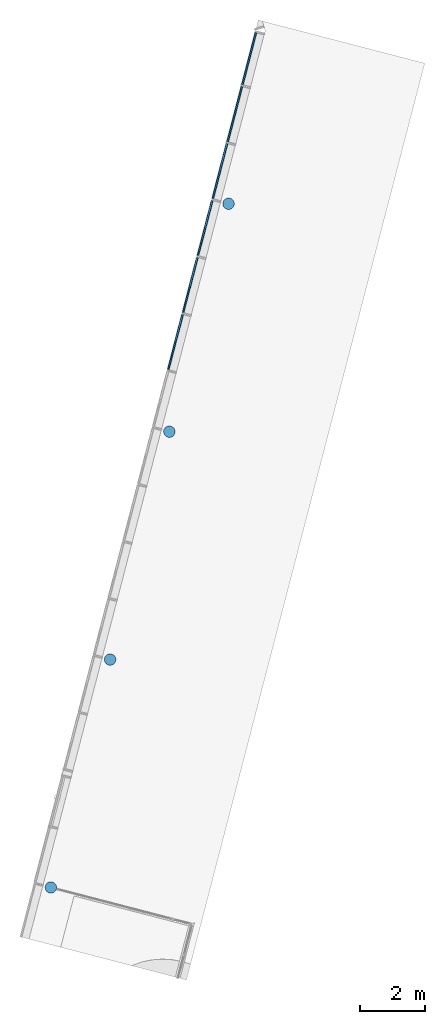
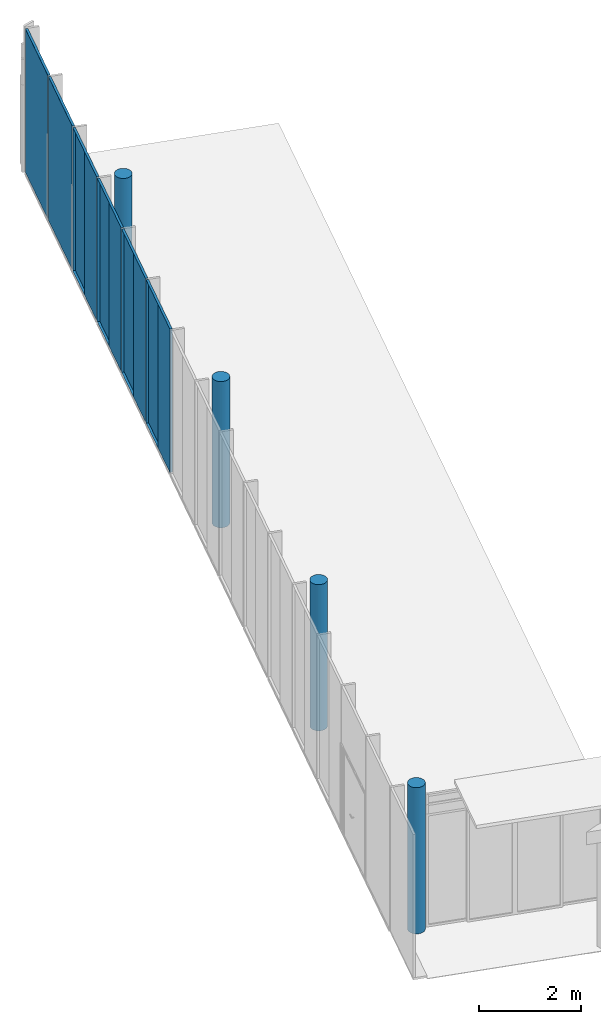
# One storey, part 6 of 9: 8 plates, 4 columns, 5 elements without a shape of their own.
"""IFC2X3 building model written with IfcOpenShell, lengths in millimetres."""

import ifcopenshell
import ifcopenshell.guid

model = None  # the IFC model being written
_history = None  # IfcOwnerHistory: only IFC2X3 demands one
_inside = {}  # id of a spatial element -> (the spatial element, [elements in it])
_under = {}  # id of a project, library or spatial element -> (it, [spatial elements below it])
_declared = {}  # id of a project -> (the project, [libraries it declares])
_typed = {}  # id of a type object -> (the type object, [elements of that type])
_made_of = {}  # id of a material, layer set ... -> (it, [elements and type objects made of it])


def new_model(schema):
    """Start an empty IFC model of exactly this schema.

    Asked for "IFC4X3", IfcOpenShell would pick the latest addendum, in which some entities
    have other attributes; the version numbers below select the first issue.
    IFC2X3 requires an IfcOwnerHistory on every rooted entity: one is made here for all.
    """
    global model, _history
    if schema == "IFC4X3":
        model = ifcopenshell.file(schema_version=(4, 3, 0, 0))
    else:
        model = ifcopenshell.file(schema=schema)
    _inside.clear()
    _under.clear()
    _declared.clear()
    _typed.clear()
    _made_of.clear()
    _history = None
    if model.schema == "IFC2X3":
        org = make("IfcOrganization", Name="unknown")
        user = make(
            "IfcPersonAndOrganization",
            ThePerson=make("IfcPerson", FamilyName="unknown"),
            TheOrganization=org,
        )
        app = make(
            "IfcApplication",
            ApplicationDeveloper=org,
            Version="unknown",
            ApplicationFullName="unknown",
            ApplicationIdentifier="unknown",
        )
        _history = make(
            "IfcOwnerHistory",
            OwningUser=user,
            OwningApplication=app,
            ChangeAction="ADDED",
            CreationDate=0,
        )
    return model


def make(cls, **values):
    """One entity of the class cls with the attributes given. An attribute that is None is left unset."""
    return model.create_entity(
        cls, **{name: value for name, value in values.items() if value is not None}
    )


def entity(cls, *values):
    """Any entity or typed value of the class cls, its attributes in the order of the schema. None: left unset."""
    e = model.create_entity(cls)
    for i, value in enumerate(values):
        if value is not None:
            e[i] = value
    return e


def rooted(cls, **values):
    """An entity with a GlobalId (a new one), such as an element, a storey or a relation."""
    return make(cls, GlobalId=ifcopenshell.guid.new(), OwnerHistory=_history, **values)


def si_unit(unit_type, name, prefix=None):
    """IfcSIUnit, for example si_unit("LENGTHUNIT", "METRE", prefix="MILLI")."""
    return make("IfcSIUnit", UnitType=unit_type, Prefix=prefix, Name=name)


def converted_unit(unit_type, name, factor, base, dimensions=None, offset=None):
    """IfcConversionBasedUnit, such as the inch: factor (a typed value) times the base unit."""
    return make(
        "IfcConversionBasedUnit"
        if offset is None
        else "IfcConversionBasedUnitWithOffset",
        ConversionOffset=offset,
        Dimensions=None
        if dimensions is None
        else entity("IfcDimensionalExponents", *dimensions),
        UnitType=unit_type,
        Name=name,
        ConversionFactor=make(
            "IfcMeasureWithUnit", ValueComponent=factor, UnitComponent=base
        ),
    )


def derived_unit(unit_type, elements):
    """IfcDerivedUnit: a product of units, each with its exponent."""
    return make(
        "IfcDerivedUnit",
        Elements=[
            make("IfcDerivedUnitElement", Unit=unit, Exponent=power)
            for unit, power in elements
        ],
        UnitType=unit_type,
    )


def assignment(units):
    """IfcUnitAssignment: the units of a project."""
    return None if units is None else make("IfcUnitAssignment", Units=units)


def point(xyz):
    """IfcCartesianPoint."""
    return None if xyz is None else make("IfcCartesianPoint", Coordinates=xyz)


def direction(xyz):
    """IfcDirection."""
    return None if xyz is None else make("IfcDirection", DirectionRatios=xyz)


def frame(location, z_axis=None, x_axis=None):
    """IfcAxis2Placement3D, a coordinate frame: its origin and axes. An axis left out is left unset."""
    return make(
        "IfcAxis2Placement3D",
        Location=point(location),
        Axis=direction(z_axis),
        RefDirection=direction(x_axis),
    )


def origin():
    """The frame at (0, 0, 0) with its axes left unset."""
    return frame((0.0, 0.0, 0.0))


def origin_with_axes():
    """The frame at (0, 0, 0) with the z axis (0, 0, 1) and the x axis (1, 0, 0) written out."""
    return frame((0.0, 0.0, 0.0), z_axis=(0.0, 0.0, 1.0), x_axis=(1.0, 0.0, 0.0))


def place(relative_to, where):
    """IfcLocalPlacement: puts the frame where relative to a parent placement (None: the world)."""
    return make(
        "IfcLocalPlacement", PlacementRelTo=relative_to, RelativePlacement=where
    )


def context(
    kind, dimensions, precision=None, world=None, true_north=None, identifier=None
):
    """IfcGeometricRepresentationContext, for example the 3D "Model" context."""
    return make(
        "IfcGeometricRepresentationContext",
        ContextIdentifier=identifier,
        ContextType=kind,
        CoordinateSpaceDimension=dimensions,
        Precision=precision,
        WorldCoordinateSystem=world,
        TrueNorth=true_north,
    )


def subcontext(parent, identifier, kind, view, scale=None):
    """IfcGeometricRepresentationSubContext, for example "Body" below "Model"."""
    return make(
        "IfcGeometricRepresentationSubContext",
        ContextIdentifier=identifier,
        ContextType=kind,
        ParentContext=parent,
        TargetScale=scale,
        TargetView=view,
    )


def project(units=None, contexts=None):
    """IfcProject with its units and contexts."""
    return rooted(
        "IfcProject",
        Name="project",
        RepresentationContexts=contexts,
        UnitsInContext=assignment(units),
    )


def spatial(cls, under=None, at=None, **own):
    """A site, building, storey or space (cls), placed at a placement, below another one or the project."""
    s = rooted(cls, ObjectPlacement=at, **own)
    if under is not None:
        _under.setdefault(under.id(), (under, []))[1].append(s)
    return s


def faces_of(points, faces, orient=None, outer=None):
    """IfcFace entities. A face is a list of loops; a loop is a list of indices into points, from 0.

    orient and outer hold one flag for each loop. By default every Orientation is true, the
    first loop of a face is its IfcFaceOuterBound and the others are IfcFaceBound.
    """
    made = []
    for i, loops in enumerate(faces):
        bounds = []
        for j, loop in enumerate(loops):
            is_outer = j == 0 if outer is None else outer[i][j]
            bounds.append(
                make(
                    "IfcFaceOuterBound" if is_outer else "IfcFaceBound",
                    Bound=make("IfcPolyLoop", Polygon=[points[k] for k in loop]),
                    Orientation=True if orient is None else orient[i][j],
                )
            )
        made.append(make("IfcFace", Bounds=bounds))
    return made


def faceted_brep(points, faces, orient=None, outer=None, voids=None):
    """IfcFacetedBrep: a solid bounded by flat faces; with voids (closed shells), ...WithVoids."""
    shared = [point(p) for p in points]
    hull = make("IfcClosedShell", CfsFaces=faces_of(shared, faces, orient, outer))
    if voids is None:
        return make("IfcFacetedBrep", Outer=hull)
    return make(
        "IfcFacetedBrepWithVoids",
        Outer=hull,
        Voids=[
            make(cls, CfsFaces=faces_of(shared, fs, o, b)) for cls, fs, o, b in voids
        ],
    )


def shape(context_of_items, identifier, shape_type, items):
    """IfcShapeRepresentation: the items that make up one representation, for example the "Body"."""
    return make(
        "IfcShapeRepresentation",
        ContextOfItems=context_of_items,
        RepresentationIdentifier=identifier,
        RepresentationType=shape_type,
        Items=items,
    )


def material(Name=None, Category=None):
    """IfcMaterial."""
    return make("IfcMaterial", Name=Name, Category=Category)


def made_of(thing, what):
    """Note that an element or type object is made of a material, layer set ...; save() writes the relation."""
    if what is not None:
        _made_of.setdefault(what.id(), (what, []))[1].append(thing)
    return thing


def type_object(cls, material=None, **own):
    """A type object (cls), such as IfcWallType, which elements share."""
    return made_of(rooted(cls, **own), material)


def element(
    cls,
    number,
    at=None,
    inside=None,
    cuts=None,
    type_object=None,
    material=None,
    context=None,
    identifier="Body",
    shape_type=None,
    held_by="IfcProductDefinitionShape",
    body=None,
    shapes=None,
    **own,
):
    """One element of the class cls, such as IfcWall. Its Tag is "e" and its number.

    at: its placement. inside: the storey or other place that contains it. cuts: it is an
    opening in that element (IfcRelVoidsElement). A single representation is given by context,
    identifier, shape_type and body (its items); several are given by shapes. held_by: the class
    of the entity that holds the representations. save() writes the other relations.
    """
    e = rooted(cls, Tag="e%d" % number, ObjectPlacement=at, **own)
    if body is not None:
        shapes = [shape(context, identifier, shape_type, body)]
    if shapes is not None:
        e.Representation = make(held_by, Representations=shapes)
    if inside is not None:
        _inside.setdefault(inside.id(), (inside, []))[1].append(e)
    if cuts is not None:
        rooted(
            "IfcRelVoidsElement", RelatingBuildingElement=cuts, RelatedOpeningElement=e
        )
    if type_object is not None:
        _typed.setdefault(type_object.id(), (type_object, []))[1].append(e)
    return made_of(e, material)


def aggregate(whole, parts):
    """IfcRelAggregates: a whole, such as a stair, and the parts it consists of."""
    return rooted("IfcRelAggregates", RelatingObject=whole, RelatedObjects=parts)


def save(model, path):
    """Write the relations noted so far, then the file.

    IfcRelAggregates (storeys below a building ...), IfcRelContainedInSpatialStructure (elements
    in a storey), IfcRelDefinesByType, IfcRelAssociatesMaterial and IfcRelDeclares: one each for
    every whole, place, type object, material and project.
    """
    for whole, parts in _under.values():
        aggregate(whole, parts)
    for where, things in _inside.values():
        rooted(
            "IfcRelContainedInSpatialStructure",
            RelatedElements=things,
            RelatingStructure=where,
        )
    for kind, things in _typed.values():
        rooted("IfcRelDefinesByType", RelatedObjects=things, RelatingType=kind)
    for what, things in _made_of.values():
        rooted("IfcRelAssociatesMaterial", RelatedObjects=things, RelatingMaterial=what)
    for by, libraries in _declared.values():
        rooted("IfcRelDeclares", RelatingContext=by, RelatedDefinitions=libraries)
    model.write(path)


model = new_model("IFC2X3")

# Units and contexts
model_context = context("Model", 3, precision=0.01, world=origin(), true_north=direction((6.12323399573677e-17, 1.0)))
plan_context = context("Plan", 3, precision=1e-05, world=origin_with_axes())
body_context = subcontext(model_context, "Body", "Model", "MODEL_VIEW")
ifc_project = project(units=[converted_unit("PLANEANGLEUNIT", "DEGREE", entity("IfcPositiveLengthMeasure", 0.0174532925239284), si_unit("PLANEANGLEUNIT", "RADIAN"), dimensions=[0, 0, 0, 0, 0, 0, 0]), si_unit("AREAUNIT", "SQUARE_METRE"), si_unit("LENGTHUNIT", "METRE", prefix="MILLI"), si_unit("MASSUNIT", "GRAM", prefix="KILO"), si_unit("POWERUNIT", "WATT"), si_unit("PRESSUREUNIT", "PASCAL", prefix="KILO"), si_unit("FORCEUNIT", "NEWTON", prefix="KILO"), si_unit("ELECTRICVOLTAGEUNIT", "VOLT"), si_unit("ELECTRICCURRENTUNIT", "AMPERE"), si_unit("THERMODYNAMICTEMPERATUREUNIT", "DEGREE_CELSIUS"), si_unit("TIMEUNIT", "SECOND"), si_unit("VOLUMEUNIT", "CUBIC_METRE"), derived_unit("LINEARVELOCITYUNIT", [(si_unit("LENGTHUNIT", "METRE"), 1), (si_unit("TIMEUNIT", "SECOND"), -1)]), derived_unit("VOLUMETRICFLOWRATEUNIT", [(si_unit("VOLUMEUNIT", "CUBIC_METRE"), 1), (si_unit("TIMEUNIT", "SECOND"), -1)]), derived_unit("THERMALTRANSMITTANCEUNIT", [(si_unit("POWERUNIT", "WATT"), 1), (si_unit("THERMODYNAMICTEMPERATUREUNIT", "KELVIN"), -1), (si_unit("AREAUNIT", "SQUARE_METRE"), -1)]), derived_unit("SOUNDPRESSUREUNIT", [(si_unit("PRESSUREUNIT", "PASCAL"), 1)])], contexts=[model_context, plan_context])

# Site, building, storey
site_placement = place(None, frame((0.0, -2.21771188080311e-09, 0.0), z_axis=(0.0, 0.0, 1.0), x_axis=(0.266093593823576, -0.963947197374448, 0.0)))
site = spatial("IfcSite", under=ifc_project, at=site_placement, Name="ENZV", CompositionType="ELEMENT")
building_placement = place(site_placement, origin_with_axes())
building = spatial("IfcBuilding", under=site, at=building_placement, Name="ZV001", CompositionType="ELEMENT")
storey_placement = place(building_placement, frame((0.0, 0.0, 5100.0), z_axis=(0.0, 0.0, 1.0), x_axis=(1.0, 0.0, 0.0)))
storey = spatial("IfcBuildingStorey", under=building, at=storey_placement, Name="H01", CompositionType="ELEMENT", Elevation=5100.0)

# Columns
ifc_material_1 = material(Name="Betong Plasstøpt - B35")
column_type = type_object("IfcColumnType", Name="Søyle Betong Sirkulær:350", PredefinedType="COLUMN", material=ifc_material_1)
column_1_placement = place(storey_placement, frame((-177880.691951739, 378033.421964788, -5100.0), z_axis=(0.0, 0.0, 1.0), x_axis=(0.866040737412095, -0.499973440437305, 0.0)))
element("IfcColumn", 1, at=column_1_placement, inside=storey, type_object=column_type, Name="Søyle Betong Sirkulær:350", ObjectType="Søyle Betong Sirkulær:350", context=body_context, shape_type="Brep", body=[
    faceted_brep([(172.341356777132, -30.3884310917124, 8600.0), (174.999999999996, -3.16979442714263e-13, 8600.0), (174.999999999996, -3.16979442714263e-13, 5100.0), (172.341356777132, -30.3884310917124, 5100.0), (172.341356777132, 30.3884310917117, 8600.0), (172.341356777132, 30.3884310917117, 5100.0), (164.44620863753, 59.8535250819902, 8600.0), (164.44620863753, 59.8535250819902, 5100.0), (151.554445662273, 87.4999999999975, 8600.0), (151.554445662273, 87.4999999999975, 5100.0), (134.057777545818, 112.487831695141, 8600.0), (134.057777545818, 112.487831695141, 5100.0), (112.487831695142, 134.057777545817, 8600.0), (112.487831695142, 134.057777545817, 5100.0), (87.4999999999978, 151.554445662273, 8600.0), (87.4999999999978, 151.554445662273, 5100.0), (59.8535250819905, 164.44620863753, 8600.0), (59.8535250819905, 164.44620863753, 5100.0), (30.3884310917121, 172.341356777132, 8600.0), (30.3884310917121, 172.341356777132, 5100.0), (1.42008719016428e-15, 174.999999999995, 8600.0), (1.42008719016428e-15, 174.999999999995, 5100.0), (-30.3884310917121, 172.341356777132, 8600.0), (-30.3884310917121, 172.341356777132, 5100.0), (-59.8535250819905, 164.44620863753, 8600.0), (-59.8535250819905, 164.44620863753, 5100.0), (-87.4999999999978, 151.554445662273, 8600.0), (-87.4999999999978, 151.554445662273, 5100.0), (-112.487831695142, 134.057777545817, 8600.0), (-112.487831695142, 134.057777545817, 5100.0), (-134.057777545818, 112.487831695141, 8600.0), (-134.057777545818, 112.487831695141, 5100.0), (-151.554445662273, 87.4999999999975, 8600.0), (-151.554445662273, 87.4999999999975, 5100.0), (-164.44620863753, 59.8535250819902, 8600.0), (-164.44620863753, 59.8535250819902, 5100.0), (-172.341356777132, 30.3884310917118, 8600.0), (-172.341356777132, 30.3884310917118, 5100.0), (-174.999999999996, -2.95548123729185e-13, 8600.0), (-174.999999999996, -2.95548123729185e-13, 5100.0), (-172.341356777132, -30.3884310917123, 8600.0), (-172.341356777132, -30.3884310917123, 5100.0), (-164.44620863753, -59.8535250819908, 8600.0), (-164.44620863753, -59.8535250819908, 5100.0), (-151.554445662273, -87.4999999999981, 8600.0), (-151.554445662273, -87.4999999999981, 5100.0), (-134.057777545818, -112.487831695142, 8600.0), (-134.057777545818, -112.487831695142, 5100.0), (-112.487831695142, -134.057777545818, 8600.0), (-112.487831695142, -134.057777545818, 5100.0), (-87.4999999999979, -151.554445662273, 8600.0), (-87.4999999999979, -151.554445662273, 5100.0), (-59.8535250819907, -164.44620863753, 8600.0), (-59.8535250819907, -164.44620863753, 5100.0), (-30.3884310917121, -172.341356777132, 8600.0), (-30.3884310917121, -172.341356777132, 5100.0), (-4.1442550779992e-14, -174.999999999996, 8600.0), (-4.1442550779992e-14, -174.999999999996, 5100.0), (30.388431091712, -172.341356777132, 8600.0), (30.388431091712, -172.341356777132, 5100.0), (59.8535250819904, -164.44620863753, 8600.0), (59.8535250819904, -164.44620863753, 5100.0), (87.4999999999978, -151.554445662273, 8600.0), (87.4999999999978, -151.554445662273, 5100.0), (112.487831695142, -134.057777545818, 8600.0), (112.487831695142, -134.057777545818, 5100.0), (134.057777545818, -112.487831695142, 8600.0), (134.057777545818, -112.487831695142, 5100.0), (151.554445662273, -87.4999999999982, 8600.0), (151.554445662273, -87.4999999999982, 5100.0), (164.44620863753, -59.853525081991, 8600.0), (164.44620863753, -59.853525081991, 5100.0)], [[[0, 1, 2, 3]], [[1, 4, 5, 2]], [[4, 6, 7, 5]], [[6, 8, 9, 7]], [[8, 10, 11, 9]], [[10, 12, 13, 11]], [[12, 14, 15, 13]], [[14, 16, 17, 15]], [[16, 18, 19, 17]], [[18, 20, 21, 19]], [[20, 22, 23, 21]], [[22, 24, 25, 23]], [[24, 26, 27, 25]], [[26, 28, 29, 27]], [[28, 30, 31, 29]], [[30, 32, 33, 31]], [[32, 34, 35, 33]], [[34, 36, 37, 35]], [[36, 38, 39, 37]], [[38, 40, 41, 39]], [[40, 42, 43, 41]], [[42, 44, 45, 43]], [[44, 46, 47, 45]], [[46, 48, 49, 47]], [[48, 50, 51, 49]], [[50, 52, 53, 51]], [[52, 54, 55, 53]], [[54, 56, 57, 55]], [[56, 58, 59, 57]], [[58, 60, 61, 59]], [[60, 62, 63, 61]], [[62, 64, 65, 63]], [[64, 66, 67, 65]], [[66, 68, 69, 67]], [[68, 70, 71, 69]], [[70, 0, 3, 71]], [[3, 2, 5, 7, 9, 11, 13, 15, 17, 19, 21, 23, 25, 27, 29, 31, 33, 35, 37, 39, 41, 43, 45, 47, 49, 51, 53, 55, 57, 59, 61, 63, 65, 67, 69, 71]], [[70, 68, 66, 64, 62, 60, 58, 56, 54, 52, 50, 48, 46, 44, 42, 40, 38, 36, 34, 32, 30, 28, 26, 24, 22, 20, 18, 16, 14, 12, 10, 8, 6, 4, 1, 0]]], orient=[[False], [False], [False], [False], [False], [False], [False], [False], [False], [False], [False], [False], [False], [False], [False], [False], [False], [False], [False], [False], [False], [False], [False], [False], [False], [False], [False], [False], [False], [False], [False], [False], [False], [False], [False], [False], [False], [False]]),
])
column_2_placement = place(storey_placement, frame((-171645.198642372, 374433.613193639, -5100.0), z_axis=(0.0, 0.0, 1.0), x_axis=(0.866040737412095, -0.499973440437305, 0.0)))
element("IfcColumn", 2, at=column_2_placement, inside=storey, type_object=column_type, Name="Søyle Betong Sirkulær:350", ObjectType="Søyle Betong Sirkulær:350", context=body_context, shape_type="Brep", body=[
    faceted_brep([(172.341356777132, -30.3884310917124, 8600.0), (174.999999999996, -3.16979442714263e-13, 8600.0), (174.999999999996, -3.16979442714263e-13, 5100.0), (172.341356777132, -30.3884310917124, 5100.0), (172.341356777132, 30.3884310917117, 8600.0), (172.341356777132, 30.3884310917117, 5100.0), (164.44620863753, 59.8535250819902, 8600.0), (164.44620863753, 59.8535250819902, 5100.0), (151.554445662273, 87.4999999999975, 8600.0), (151.554445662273, 87.4999999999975, 5100.0), (134.057777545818, 112.487831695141, 8600.0), (134.057777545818, 112.487831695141, 5100.0), (112.487831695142, 134.057777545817, 8600.0), (112.487831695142, 134.057777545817, 5100.0), (87.4999999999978, 151.554445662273, 8600.0), (87.4999999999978, 151.554445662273, 5100.0), (59.8535250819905, 164.44620863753, 8600.0), (59.8535250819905, 164.44620863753, 5100.0), (30.3884310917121, 172.341356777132, 8600.0), (30.3884310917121, 172.341356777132, 5100.0), (1.42008719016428e-15, 174.999999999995, 8600.0), (1.42008719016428e-15, 174.999999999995, 5100.0), (-30.3884310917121, 172.341356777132, 8600.0), (-30.3884310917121, 172.341356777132, 5100.0), (-59.8535250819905, 164.44620863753, 8600.0), (-59.8535250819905, 164.44620863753, 5100.0), (-87.4999999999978, 151.554445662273, 8600.0), (-87.4999999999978, 151.554445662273, 5100.0), (-112.487831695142, 134.057777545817, 8600.0), (-112.487831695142, 134.057777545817, 5100.0), (-134.057777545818, 112.487831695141, 8600.0), (-134.057777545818, 112.487831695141, 5100.0), (-151.554445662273, 87.4999999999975, 8600.0), (-151.554445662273, 87.4999999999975, 5100.0), (-164.44620863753, 59.8535250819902, 8600.0), (-164.44620863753, 59.8535250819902, 5100.0), (-172.341356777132, 30.3884310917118, 8600.0), (-172.341356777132, 30.3884310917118, 5100.0), (-174.999999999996, -2.95548123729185e-13, 8600.0), (-174.999999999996, -2.95548123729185e-13, 5100.0), (-172.341356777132, -30.3884310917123, 8600.0), (-172.341356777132, -30.3884310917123, 5100.0), (-164.44620863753, -59.8535250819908, 8600.0), (-164.44620863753, -59.8535250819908, 5100.0), (-151.554445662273, -87.4999999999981, 8600.0), (-151.554445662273, -87.4999999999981, 5100.0), (-134.057777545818, -112.487831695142, 8600.0), (-134.057777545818, -112.487831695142, 5100.0), (-112.487831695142, -134.057777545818, 8600.0), (-112.487831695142, -134.057777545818, 5100.0), (-87.4999999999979, -151.554445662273, 8600.0), (-87.4999999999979, -151.554445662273, 5100.0), (-59.8535250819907, -164.44620863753, 8600.0), (-59.8535250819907, -164.44620863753, 5100.0), (-30.3884310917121, -172.341356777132, 8600.0), (-30.3884310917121, -172.341356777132, 5100.0), (-4.1442550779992e-14, -174.999999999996, 8600.0), (-4.1442550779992e-14, -174.999999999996, 5100.0), (30.388431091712, -172.341356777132, 8600.0), (30.388431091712, -172.341356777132, 5100.0), (59.8535250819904, -164.44620863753, 8600.0), (59.8535250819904, -164.44620863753, 5100.0), (87.4999999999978, -151.554445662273, 8600.0), (87.4999999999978, -151.554445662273, 5100.0), (112.487831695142, -134.057777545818, 8600.0), (112.487831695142, -134.057777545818, 5100.0), (134.057777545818, -112.487831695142, 8600.0), (134.057777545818, -112.487831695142, 5100.0), (151.554445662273, -87.4999999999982, 8600.0), (151.554445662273, -87.4999999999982, 5100.0), (164.44620863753, -59.853525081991, 8600.0), (164.44620863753, -59.853525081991, 5100.0)], [[[0, 1, 2, 3]], [[1, 4, 5, 2]], [[4, 6, 7, 5]], [[6, 8, 9, 7]], [[8, 10, 11, 9]], [[10, 12, 13, 11]], [[12, 14, 15, 13]], [[14, 16, 17, 15]], [[16, 18, 19, 17]], [[18, 20, 21, 19]], [[20, 22, 23, 21]], [[22, 24, 25, 23]], [[24, 26, 27, 25]], [[26, 28, 29, 27]], [[28, 30, 31, 29]], [[30, 32, 33, 31]], [[32, 34, 35, 33]], [[34, 36, 37, 35]], [[36, 38, 39, 37]], [[38, 40, 41, 39]], [[40, 42, 43, 41]], [[42, 44, 45, 43]], [[44, 46, 47, 45]], [[46, 48, 49, 47]], [[48, 50, 51, 49]], [[50, 52, 53, 51]], [[52, 54, 55, 53]], [[54, 56, 57, 55]], [[56, 58, 59, 57]], [[58, 60, 61, 59]], [[60, 62, 63, 61]], [[62, 64, 65, 63]], [[64, 66, 67, 65]], [[66, 68, 69, 67]], [[68, 70, 71, 69]], [[70, 0, 3, 71]], [[3, 2, 5, 7, 9, 11, 13, 15, 17, 19, 21, 23, 25, 27, 29, 31, 33, 35, 37, 39, 41, 43, 45, 47, 49, 51, 53, 55, 57, 59, 61, 63, 65, 67, 69, 71]], [[70, 68, 66, 64, 62, 60, 58, 56, 54, 52, 50, 48, 46, 44, 42, 40, 38, 36, 34, 32, 30, 28, 26, 24, 22, 20, 18, 16, 14, 12, 10, 8, 6, 4, 1, 0]]], orient=[[False], [False], [False], [False], [False], [False], [False], [False], [False], [False], [False], [False], [False], [False], [False], [False], [False], [False], [False], [False], [False], [False], [False], [False], [False], [False], [False], [False], [False], [False], [False], [False], [False], [False], [False], [False], [False], [False]]),
])
column_3_placement = place(storey_placement, frame((-165409.705333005, 370833.80442249, -5100.0), z_axis=(0.0, 0.0, 1.0), x_axis=(0.866040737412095, -0.499973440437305, 0.0)))
element("IfcColumn", 3, at=column_3_placement, inside=storey, type_object=column_type, Name="Søyle Betong Sirkulær:350", ObjectType="Søyle Betong Sirkulær:350", context=body_context, shape_type="Brep", body=[
    faceted_brep([(172.341356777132, -30.3884310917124, 8600.0), (174.999999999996, -3.16979442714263e-13, 8600.0), (174.999999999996, -3.16979442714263e-13, 5100.0), (172.341356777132, -30.3884310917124, 5100.0), (172.341356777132, 30.3884310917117, 8600.0), (172.341356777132, 30.3884310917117, 5100.0), (164.44620863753, 59.8535250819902, 8600.0), (164.44620863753, 59.8535250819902, 5100.0), (151.554445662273, 87.4999999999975, 8600.0), (151.554445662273, 87.4999999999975, 5100.0), (134.057777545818, 112.487831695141, 8600.0), (134.057777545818, 112.487831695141, 5100.0), (112.487831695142, 134.057777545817, 8600.0), (112.487831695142, 134.057777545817, 5100.0), (87.4999999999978, 151.554445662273, 8600.0), (87.4999999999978, 151.554445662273, 5100.0), (59.8535250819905, 164.44620863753, 8600.0), (59.8535250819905, 164.44620863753, 5100.0), (30.3884310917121, 172.341356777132, 8600.0), (30.3884310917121, 172.341356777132, 5100.0), (1.42008719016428e-15, 174.999999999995, 8600.0), (1.42008719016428e-15, 174.999999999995, 5100.0), (-30.3884310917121, 172.341356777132, 8600.0), (-30.3884310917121, 172.341356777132, 5100.0), (-59.8535250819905, 164.44620863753, 8600.0), (-59.8535250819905, 164.44620863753, 5100.0), (-87.4999999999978, 151.554445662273, 8600.0), (-87.4999999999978, 151.554445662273, 5100.0), (-112.487831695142, 134.057777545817, 8600.0), (-112.487831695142, 134.057777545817, 5100.0), (-134.057777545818, 112.487831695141, 8600.0), (-134.057777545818, 112.487831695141, 5100.0), (-151.554445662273, 87.4999999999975, 8600.0), (-151.554445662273, 87.4999999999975, 5100.0), (-164.44620863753, 59.8535250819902, 8600.0), (-164.44620863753, 59.8535250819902, 5100.0), (-172.341356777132, 30.3884310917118, 8600.0), (-172.341356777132, 30.3884310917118, 5100.0), (-174.999999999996, -2.95548123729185e-13, 8600.0), (-174.999999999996, -2.95548123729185e-13, 5100.0), (-172.341356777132, -30.3884310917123, 8600.0), (-172.341356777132, -30.3884310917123, 5100.0), (-164.44620863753, -59.8535250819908, 8600.0), (-164.44620863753, -59.8535250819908, 5100.0), (-151.554445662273, -87.4999999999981, 8600.0), (-151.554445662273, -87.4999999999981, 5100.0), (-134.057777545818, -112.487831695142, 8600.0), (-134.057777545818, -112.487831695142, 5100.0), (-112.487831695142, -134.057777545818, 8600.0), (-112.487831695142, -134.057777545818, 5100.0), (-87.4999999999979, -151.554445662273, 8600.0), (-87.4999999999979, -151.554445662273, 5100.0), (-59.8535250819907, -164.44620863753, 8600.0), (-59.8535250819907, -164.44620863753, 5100.0), (-30.3884310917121, -172.341356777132, 8600.0), (-30.3884310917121, -172.341356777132, 5100.0), (-4.1442550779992e-14, -174.999999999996, 8600.0), (-4.1442550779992e-14, -174.999999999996, 5100.0), (30.388431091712, -172.341356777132, 8600.0), (30.388431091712, -172.341356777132, 5100.0), (59.8535250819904, -164.44620863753, 8600.0), (59.8535250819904, -164.44620863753, 5100.0), (87.4999999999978, -151.554445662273, 8600.0), (87.4999999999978, -151.554445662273, 5100.0), (112.487831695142, -134.057777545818, 8600.0), (112.487831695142, -134.057777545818, 5100.0), (134.057777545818, -112.487831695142, 8600.0), (134.057777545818, -112.487831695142, 5100.0), (151.554445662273, -87.4999999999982, 8600.0), (151.554445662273, -87.4999999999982, 5100.0), (164.44620863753, -59.853525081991, 8600.0), (164.44620863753, -59.853525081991, 5100.0)], [[[0, 1, 2, 3]], [[1, 4, 5, 2]], [[4, 6, 7, 5]], [[6, 8, 9, 7]], [[8, 10, 11, 9]], [[10, 12, 13, 11]], [[12, 14, 15, 13]], [[14, 16, 17, 15]], [[16, 18, 19, 17]], [[18, 20, 21, 19]], [[20, 22, 23, 21]], [[22, 24, 25, 23]], [[24, 26, 27, 25]], [[26, 28, 29, 27]], [[28, 30, 31, 29]], [[30, 32, 33, 31]], [[32, 34, 35, 33]], [[34, 36, 37, 35]], [[36, 38, 39, 37]], [[38, 40, 41, 39]], [[40, 42, 43, 41]], [[42, 44, 45, 43]], [[44, 46, 47, 45]], [[46, 48, 49, 47]], [[48, 50, 51, 49]], [[50, 52, 53, 51]], [[52, 54, 55, 53]], [[54, 56, 57, 55]], [[56, 58, 59, 57]], [[58, 60, 61, 59]], [[60, 62, 63, 61]], [[62, 64, 65, 63]], [[64, 66, 67, 65]], [[66, 68, 69, 67]], [[68, 70, 71, 69]], [[70, 0, 3, 71]], [[3, 2, 5, 7, 9, 11, 13, 15, 17, 19, 21, 23, 25, 27, 29, 31, 33, 35, 37, 39, 41, 43, 45, 47, 49, 51, 53, 55, 57, 59, 61, 63, 65, 67, 69, 71]], [[70, 68, 66, 64, 62, 60, 58, 56, 54, 52, 50, 48, 46, 44, 42, 40, 38, 36, 34, 32, 30, 28, 26, 24, 22, 20, 18, 16, 14, 12, 10, 8, 6, 4, 1, 0]]], orient=[[False], [False], [False], [False], [False], [False], [False], [False], [False], [False], [False], [False], [False], [False], [False], [False], [False], [False], [False], [False], [False], [False], [False], [False], [False], [False], [False], [False], [False], [False], [False], [False], [False], [False], [False], [False], [False], [False]]),
])
column_4_placement = place(storey_placement, frame((-159174.212020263, 367233.995649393, -5100.0), z_axis=(0.0, 0.0, 1.0), x_axis=(0.866040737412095, -0.499973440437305, 0.0)))
element("IfcColumn", 4, at=column_4_placement, inside=storey, type_object=column_type, Name="Søyle Betong Sirkulær:350", ObjectType="Søyle Betong Sirkulær:350", context=body_context, shape_type="Brep", body=[
    faceted_brep([(172.341356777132, -30.3884310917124, 8600.0), (174.999999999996, -3.16979442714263e-13, 8600.0), (174.999999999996, -3.16979442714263e-13, 5100.0), (172.341356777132, -30.3884310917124, 5100.0), (172.341356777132, 30.3884310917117, 8600.0), (172.341356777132, 30.3884310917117, 5100.0), (164.44620863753, 59.8535250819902, 8600.0), (164.44620863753, 59.8535250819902, 5100.0), (151.554445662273, 87.4999999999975, 8600.0), (151.554445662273, 87.4999999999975, 5100.0), (134.057777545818, 112.487831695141, 8600.0), (134.057777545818, 112.487831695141, 5100.0), (112.487831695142, 134.057777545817, 8600.0), (112.487831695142, 134.057777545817, 5100.0), (87.4999999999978, 151.554445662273, 8600.0), (87.4999999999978, 151.554445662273, 5100.0), (59.8535250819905, 164.44620863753, 8600.0), (59.8535250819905, 164.44620863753, 5100.0), (30.3884310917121, 172.341356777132, 8600.0), (30.3884310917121, 172.341356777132, 5100.0), (1.42008719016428e-15, 174.999999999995, 8600.0), (1.42008719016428e-15, 174.999999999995, 5100.0), (-30.3884310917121, 172.341356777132, 8600.0), (-30.3884310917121, 172.341356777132, 5100.0), (-59.8535250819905, 164.44620863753, 8600.0), (-59.8535250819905, 164.44620863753, 5100.0), (-87.4999999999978, 151.554445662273, 8600.0), (-87.4999999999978, 151.554445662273, 5100.0), (-112.487831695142, 134.057777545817, 8600.0), (-112.487831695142, 134.057777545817, 5100.0), (-134.057777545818, 112.487831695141, 8600.0), (-134.057777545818, 112.487831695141, 5100.0), (-151.554445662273, 87.4999999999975, 8600.0), (-151.554445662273, 87.4999999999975, 5100.0), (-164.44620863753, 59.8535250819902, 8600.0), (-164.44620863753, 59.8535250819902, 5100.0), (-172.341356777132, 30.3884310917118, 8600.0), (-172.341356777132, 30.3884310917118, 5100.0), (-174.999999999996, -2.95548123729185e-13, 8600.0), (-174.999999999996, -2.95548123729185e-13, 5100.0), (-172.341356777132, -30.3884310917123, 8600.0), (-172.341356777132, -30.3884310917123, 5100.0), (-164.44620863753, -59.8535250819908, 8600.0), (-164.44620863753, -59.8535250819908, 5100.0), (-151.554445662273, -87.4999999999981, 8600.0), (-151.554445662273, -87.4999999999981, 5100.0), (-134.057777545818, -112.487831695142, 8600.0), (-134.057777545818, -112.487831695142, 5100.0), (-112.487831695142, -134.057777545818, 8600.0), (-112.487831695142, -134.057777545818, 5100.0), (-87.4999999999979, -151.554445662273, 8600.0), (-87.4999999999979, -151.554445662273, 5100.0), (-59.8535250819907, -164.44620863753, 8600.0), (-59.8535250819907, -164.44620863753, 5100.0), (-30.3884310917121, -172.341356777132, 8600.0), (-30.3884310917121, -172.341356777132, 5100.0), (-4.1442550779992e-14, -174.999999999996, 8600.0), (-4.1442550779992e-14, -174.999999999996, 5100.0), (30.388431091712, -172.341356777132, 8600.0), (30.388431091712, -172.341356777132, 5100.0), (59.8535250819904, -164.44620863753, 8600.0), (59.8535250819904, -164.44620863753, 5100.0), (87.4999999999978, -151.554445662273, 8600.0), (87.4999999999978, -151.554445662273, 5100.0), (112.487831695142, -134.057777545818, 8600.0), (112.487831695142, -134.057777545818, 5100.0), (134.057777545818, -112.487831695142, 8600.0), (134.057777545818, -112.487831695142, 5100.0), (151.554445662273, -87.4999999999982, 8600.0), (151.554445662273, -87.4999999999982, 5100.0), (164.44620863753, -59.853525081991, 8600.0), (164.44620863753, -59.853525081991, 5100.0)], [[[0, 1, 2, 3]], [[1, 4, 5, 2]], [[4, 6, 7, 5]], [[6, 8, 9, 7]], [[8, 10, 11, 9]], [[10, 12, 13, 11]], [[12, 14, 15, 13]], [[14, 16, 17, 15]], [[16, 18, 19, 17]], [[18, 20, 21, 19]], [[20, 22, 23, 21]], [[22, 24, 25, 23]], [[24, 26, 27, 25]], [[26, 28, 29, 27]], [[28, 30, 31, 29]], [[30, 32, 33, 31]], [[32, 34, 35, 33]], [[34, 36, 37, 35]], [[36, 38, 39, 37]], [[38, 40, 41, 39]], [[40, 42, 43, 41]], [[42, 44, 45, 43]], [[44, 46, 47, 45]], [[46, 48, 49, 47]], [[48, 50, 51, 49]], [[50, 52, 53, 51]], [[52, 54, 55, 53]], [[54, 56, 57, 55]], [[56, 58, 59, 57]], [[58, 60, 61, 59]], [[60, 62, 63, 61]], [[62, 64, 65, 63]], [[64, 66, 67, 65]], [[66, 68, 69, 67]], [[68, 70, 71, 69]], [[70, 0, 3, 71]], [[3, 2, 5, 7, 9, 11, 13, 15, 17, 19, 21, 23, 25, 27, 29, 31, 33, 35, 37, 39, 41, 43, 45, 47, 49, 51, 53, 55, 57, 59, 61, 63, 65, 67, 69, 71]], [[70, 68, 66, 64, 62, 60, 58, 56, 54, 52, 50, 48, 46, 44, 42, 40, 38, 36, 34, 32, 30, 28, 26, 24, 22, 20, 18, 16, 14, 12, 10, 8, 6, 4, 1, 0]]], orient=[[False], [False], [False], [False], [False], [False], [False], [False], [False], [False], [False], [False], [False], [False], [False], [False], [False], [False], [False], [False], [False], [False], [False], [False], [False], [False], [False], [False], [False], [False], [False], [False], [False], [False], [False], [False], [False], [False]]),
])

# Curtain wall, plates
curtain_wall_type = type_object("IfcCurtainWallType", Name="Curtain Wall:Curtain Wall glass 125mm ut", PredefinedType="NOTDEFINED")
curtain_wall_1_placement = place(storey_placement, frame((0.0, 0.0, -5100.0), z_axis=(0.0, 0.0, 1.0), x_axis=(1.0, 0.0, 0.0)))
curtain_wall_1 = element("IfcCurtainWall", 5, at=curtain_wall_1_placement, inside=storey, type_object=curtain_wall_type, Name="Curtain Wall:Curtain Wall glass 125mm ut", ObjectType="Curtain Wall:Curtain Wall glass 125mm ut")
ifc_material_2 = material(Name="Glass")
plate_type_1 = type_object("IfcPlateType", Name="System Panel:Glassfelt 52mm+103mm ut", PredefinedType="CURTAIN_PANEL", material=ifc_material_2)
plate_1_placement = place(curtain_wall_1_placement, frame((-178861.721844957, 378134.787849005, 5170.0), z_axis=(0.0, 0.0, 1.0), x_axis=(0.866025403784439, -0.5, 0.0)))
plate_1 = element("IfcPlate", 6, at=plate_1_placement, type_object=plate_type_1, Name="System Panel:Glassfelt 52mm+103mm ut", ObjectType="System Panel:Glassfelt 52mm+103mm ut", context=body_context, shape_type="Brep", body=[
    faceted_brep([(-0.00307031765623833, -132.0, 0.0), (-0.00307031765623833, -132.0, 3430.0), (874.979510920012, -132.0, 3430.0), (874.979510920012, -132.0, 0.0), (874.979510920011, -132.040757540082, 3430.0), (874.979510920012, -80.0, 3430.0), (874.979510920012, -80.0, 0.0), (-874.979510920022, -80.0, 3430.0), (-874.979510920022, -80.0, 0.0), (-874.979510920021, -131.959242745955, 3430.0), (-874.979510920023, -131.959242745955, -1.13686837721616e-13), (-874.979510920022, -132.0, 0.0), (-874.979510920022, -132.0, 3430.0)], [[[0, 1, 2, 3]], [[4, 5, 6, 3]], [[5, 7, 8, 6]], [[7, 9, 10, 8]], [[11, 0, 3, 6, 8, 10]], [[7, 5, 2, 12]]], orient=[[False], [False], [False], [False], [False], [False]]),
])
plate_2_placement = place(curtain_wall_1_placement, frame((-177302.918042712, 377234.715237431, 5170.0), z_axis=(0.0, 0.0, 1.0), x_axis=(0.866025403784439, -0.5, 0.0)))
plate_2 = element("IfcPlate", 7, at=plate_2_placement, type_object=plate_type_1, Name="System Panel:Glassfelt 52mm+103mm ut", ObjectType="System Panel:Glassfelt 52mm+103mm ut", context=body_context, shape_type="Brep", body=[
    faceted_brep([(-0.00307068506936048, -132.0, 0.0), (-0.00307068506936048, -132.0, 3430.0), (874.979510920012, -132.0, 3430.0), (874.979510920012, -132.0, 0.0), (874.979510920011, -132.040757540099, 3430.0), (874.979510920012, -80.0, 3430.0), (874.979510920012, -80.0, 0.0), (-874.979510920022, -80.0, 3430.0), (-874.979510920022, -80.0, 0.0), (-874.979510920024, -131.959242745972, 3430.0), (-874.979510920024, -131.959242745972, -1.13686837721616e-13), (-874.979510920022, -132.0, 0.0), (-874.979510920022, -132.0, 3430.0)], [[[0, 1, 2, 3]], [[4, 5, 6, 3]], [[5, 7, 8, 6]], [[7, 9, 10, 8]], [[11, 0, 3, 6, 8, 10]], [[7, 5, 2, 12]]], orient=[[False], [False], [False], [False], [False], [False]]),
])
plate_3_placement = place(curtain_wall_1_placement, frame((-175744.114240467, 376334.642625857, 5170.0), z_axis=(0.0, 0.0, 1.0), x_axis=(0.866025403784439, -0.5, 0.0)))
plate_3 = element("IfcPlate", 8, at=plate_3_placement, type_object=plate_type_1, Name="System Panel:Glassfelt 52mm+103mm ut", ObjectType="System Panel:Glassfelt 52mm+103mm ut", context=body_context, shape_type="Brep", body=[
    faceted_brep([(-0.00307355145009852, -132.0, 0.0), (-0.00307355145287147, -132.0, 3430.0), (874.979510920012, -132.0, 3430.0), (874.979510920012, -132.0, 0.0), (874.979510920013, -132.040757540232, 3430.0), (874.979510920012, -80.0, 3430.0), (874.979510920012, -80.0, 0.0), (-874.979510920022, -80.0, 3430.0), (-874.979510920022, -80.0, 0.0), (-874.979510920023, -131.959242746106, 3430.0), (-874.979510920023, -131.959242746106, -1.13686837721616e-13), (-874.979510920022, -132.0, 0.0), (-874.979510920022, -132.0, 3430.0)], [[[0, 1, 2, 3]], [[4, 5, 6, 3]], [[5, 7, 8, 6]], [[7, 9, 10, 8]], [[11, 0, 3, 6, 8, 10]], [[7, 5, 2, 12]]], orient=[[False], [False], [False], [False], [False], [False]]),
])
plate_4_placement = place(curtain_wall_1_placement, frame((-174185.310438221, 375434.570014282, 5170.0), z_axis=(0.0, 0.0, 1.0), x_axis=(0.866025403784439, -0.5, 0.0)))
plate_4 = element("IfcPlate", 9, at=plate_4_placement, type_object=plate_type_1, Name="System Panel:Glassfelt 52mm+103mm ut", ObjectType="System Panel:Glassfelt 52mm+103mm ut", context=body_context, shape_type="Brep", body=[
    faceted_brep([(-0.00307329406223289, -132.0, 0.0), (-0.00307329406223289, -132.0, 3430.0), (874.979510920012, -132.0, 3430.0), (874.979510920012, -132.0, 0.0), (874.97951092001, -132.04075754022, 3430.0), (874.979510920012, -80.0, 3430.0), (874.979510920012, -80.0, 0.0), (-874.979510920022, -80.0, 3430.0), (-874.979510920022, -80.0, 0.0), (-874.979510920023, -131.959242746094, 3430.0), (-874.979510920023, -131.959242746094, -1.13686837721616e-13), (-874.979510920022, -132.0, 0.0), (-874.979510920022, -132.0, 3430.0)], [[[0, 1, 2, 3]], [[4, 5, 6, 3]], [[5, 7, 8, 6]], [[7, 9, 10, 8]], [[11, 0, 3, 6, 8, 10]], [[7, 5, 2, 12]]], orient=[[False], [False], [False], [False], [False], [False]]),
])
aggregate(curtain_wall_1, [plate_1, plate_2, plate_3, plate_4])

# Curtain wall, plate
curtain_wall_2_placement = place(storey_placement, frame((0.0, 0.0, -5100.0), z_axis=(0.0, 0.0, 1.0), x_axis=(1.0, 0.0, 0.0)))
curtain_wall_2 = element("IfcCurtainWall", 10, at=curtain_wall_2_placement, inside=storey, type_object=curtain_wall_type, Name="Curtain Wall:Curtain Wall glass 125mm ut", ObjectType="Curtain Wall:Curtain Wall glass 125mm ut")
plate_type_2 = type_object("IfcPlateType", Name="System Panel:Glassfelt 52mm+103mm ut", PredefinedType="CURTAIN_PANEL", material=ifc_material_2)
plate_5_placement = place(curtain_wall_2_placement, frame((-180419.731886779, 379036.128438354, 5170.0), z_axis=(0.0, 0.0, 1.0), x_axis=(-0.866025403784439, 0.5, 0.0)))
plate_5 = element("IfcPlate", 11, at=plate_5_placement, type_object=plate_type_2, Name="System Panel:Glassfelt 52mm+103mm ut", ObjectType="System Panel:Glassfelt 52mm+103mm ut", context=body_context, shape_type="Brep", body=[
    faceted_brep([(-874.979510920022, 80.0, 3430.0), (874.979510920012, 80.0, 3430.0), (874.979510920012, 80.0, 0.0), (-874.979510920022, 80.0, 0.0), (874.979510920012, 132.0, 3430.0), (874.979510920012, 132.0, 0.0), (-874.979510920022, 132.0, 3430.0), (-874.979510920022, 132.0, 0.0)], [[[0, 1, 2, 3]], [[1, 4, 5, 2]], [[4, 6, 7, 5]], [[6, 0, 3, 7]], [[3, 2, 5, 7]], [[6, 4, 1, 0]]], orient=[[False], [False], [False], [False], [False], [False]]),
])
aggregate(curtain_wall_2, [plate_5])

curtain_wall_3_placement = place(storey_placement, frame((0.0, 0.0, -5100.0), z_axis=(0.0, 0.0, 1.0), x_axis=(1.0, 0.0, 0.0)))
curtain_wall_3 = element("IfcCurtainWall", 12, at=curtain_wall_3_placement, inside=storey, type_object=curtain_wall_type, Name="Curtain Wall:Curtain Wall glass 125mm ut", ObjectType="Curtain Wall:Curtain Wall glass 125mm ut")
plate_type_3 = type_object("IfcPlateType", Name="System Panel:Glassfelt 52mm+103mm ut", PredefinedType="CURTAIN_PANEL", material=ifc_material_2)
plate_6_placement = place(curtain_wall_3_placement, frame((-180420.2391826, 379035.27363857, 5170.0), z_axis=(0.0, 0.0, 1.0), x_axis=(-0.866025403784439, 0.5, 0.0)))
plate_6 = element("IfcPlate", 13, at=plate_6_placement, type_object=plate_type_3, Name="System Panel:Glassfelt 52mm+103mm ut", ObjectType="System Panel:Glassfelt 52mm+103mm ut", context=body_context, shape_type="Brep", body=[
    faceted_brep([(875.000000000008, 80.0, -2.27373675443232e-13), (875.000000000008, 132.0, -2.27373675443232e-13), (-875.000000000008, 132.0, -2.27373675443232e-13), (-875.000000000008, 80.0, -2.27373675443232e-13), (-875.000000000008, 132.0, 3430.0), (-875.000000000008, 80.0, 3430.0), (875.000000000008, 80.0, 3430.0), (875.000000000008, 132.0, 3430.0)], [[[0, 1, 2, 3]], [[4, 5, 3, 2]], [[6, 7, 1, 0]], [[5, 6, 0, 3]], [[7, 4, 2, 1]], [[7, 6, 5, 4]]], orient=[[False], [False], [False], [False], [False], [False]]),
])
aggregate(curtain_wall_3, [plate_6])

curtain_wall_4_placement = place(storey_placement, frame((0.0, 0.0, -5100.0), z_axis=(0.0, 0.0, 1.0), x_axis=(1.0, 0.0, 0.0)))
curtain_wall_4 = element("IfcCurtainWall", 14, at=curtain_wall_4_placement, inside=storey, type_object=curtain_wall_type, Name="Curtain Wall:Curtain Wall glass 125mm ut", ObjectType="Curtain Wall:Curtain Wall glass 125mm ut")
plate_type_4 = type_object("IfcPlateType", Name="System Panel:Glassfelt 52mm+103mm ut", PredefinedType="CURTAIN_PANEL", material=ifc_material_2)
plate_7_placement = place(curtain_wall_4_placement, frame((-181937.568590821, 379911.043411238, 5170.0), z_axis=(0.0, 0.0, 1.0), x_axis=(-0.866025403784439, 0.5, 0.0)))
plate_7 = element("IfcPlate", 15, at=plate_7_placement, type_object=plate_type_4, Name="System Panel:Glassfelt 52mm+103mm ut", ObjectType="System Panel:Glassfelt 52mm+103mm ut", context=body_context, shape_type="Brep", body=[
    faceted_brep([(-826.958121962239, 80.0, 3430.0), (826.958121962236, 80.0, 3430.0), (826.958121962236, 80.0, 0.0), (-826.958121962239, 80.0, 0.0), (826.958121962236, 132.0, 3430.0), (826.958121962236, 132.0, 0.0), (-826.95812196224, 132.0, 3430.0), (-826.958121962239, 132.0, 0.0)], [[[0, 1, 2, 3]], [[1, 4, 5, 2]], [[4, 6, 7, 5]], [[6, 0, 3, 7]], [[3, 2, 5, 7]], [[6, 4, 1, 0]]], orient=[[False], [False], [False], [False], [False], [False]]),
])
aggregate(curtain_wall_4, [plate_7])

curtain_wall_5_placement = place(storey_placement, frame((0.0, 0.0, -5100.0), z_axis=(0.0, 0.0, 1.0), x_axis=(1.0, 0.0, 0.0)))
curtain_wall_5 = element("IfcCurtainWall", 16, at=curtain_wall_5_placement, inside=storey, type_object=curtain_wall_type, Name="Curtain Wall:Curtain Wall glass 125mm ut", ObjectType="Curtain Wall:Curtain Wall glass 125mm ut")
plate_type_5 = type_object("IfcPlateType", Name="System Panel:Glassfelt 52mm+103mm ut", PredefinedType="CURTAIN_PANEL", material=ifc_material_2)
plate_8_placement = place(curtain_wall_5_placement, frame((-181936.946813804, 379912.14262836, 5170.0), z_axis=(0.0, 0.0, 1.0), x_axis=(-0.866025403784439, 0.5, 0.0)))
plate_8 = element("IfcPlate", 17, at=plate_8_placement, type_object=plate_type_5, Name="System Panel:Glassfelt 52mm+103mm ut", ObjectType="System Panel:Glassfelt 52mm+103mm ut", context=body_context, shape_type="Brep", body=[
    faceted_brep([(-826.946995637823, 80.0, 3430.0), (826.946995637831, 80.0, 3430.0), (826.946995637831, 80.0, 0.0), (-826.946995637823, 80.0, 0.0), (826.946995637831, 132.0, 3430.0), (826.946995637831, 132.0, 0.0), (-826.946995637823, 132.0, 3430.0), (-826.946995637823, 132.0, 0.0)], [[[0, 1, 2, 3]], [[1, 4, 5, 2]], [[4, 6, 7, 5]], [[6, 0, 3, 7]], [[3, 2, 5, 7]], [[6, 4, 1, 0]]], orient=[[False], [False], [False], [False], [False], [False]]),
])
aggregate(curtain_wall_5, [plate_8])

save(model, "model.ifc")
